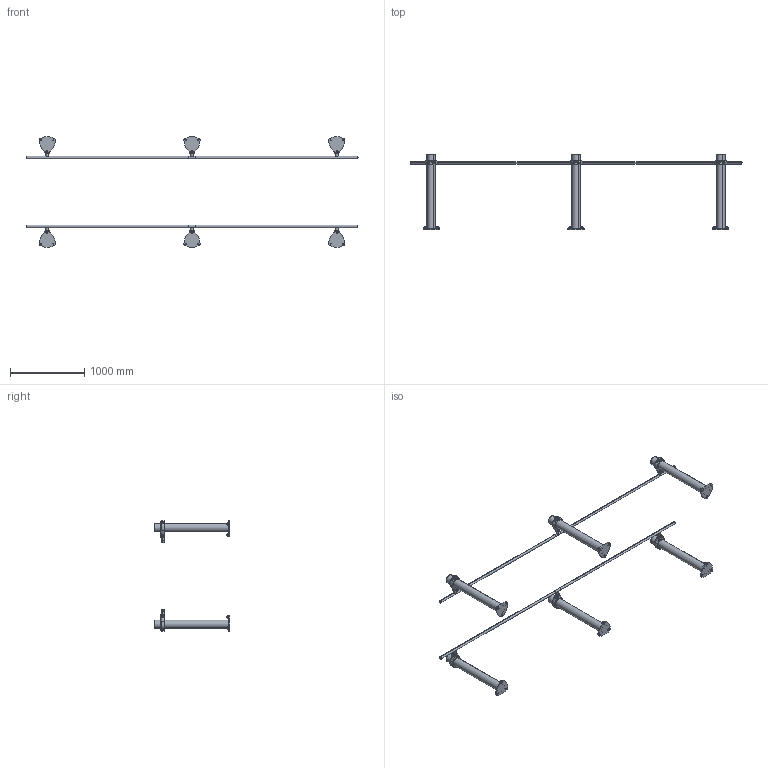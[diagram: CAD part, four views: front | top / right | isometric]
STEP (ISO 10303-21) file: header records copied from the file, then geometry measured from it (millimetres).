
FILE_DESCRIPTION (( 'STEP AP214' ), '1' );
FILE_NAME ('PMS0822 - COULOIR DE MARCHE V1.0.STEP', '2025-05-26T13:22:22', ( '' ), ( '' ), 'SwSTEP 2.0', 'SolidWorks 2024', '' );
FILE_SCHEMA (( 'AUTOMOTIVE_DESIGN' ));
Length unit declared in the file: millimetre
Products named in the file (1): PMS0822 - COULOIR DE MARCHE V1.0
Bounding box: 4472 x 1015 x 1490.25 mm (x, y, z)
Surface area: 4118322.7 mm2 (no closed solid volume)
Topology: 0 solids, 184 shells, 994 faces, 3746 edges, 2800 vertices
Faces by surface type: bspline 338, cylinder 300, plane 220, torus 76, sphere 36, cone 24
Entity records: 67657 total; most frequent: CARTESIAN_POINT 40995, ORIENTED_EDGE 5326, DIRECTION 4534, EDGE_CURVE 3730, VERTEX_POINT 2800, AXIS2_PLACEMENT_3D 1771, B_SPLINE_CURVE_WITH_KNOTS 1350, CIRCLE 1114
